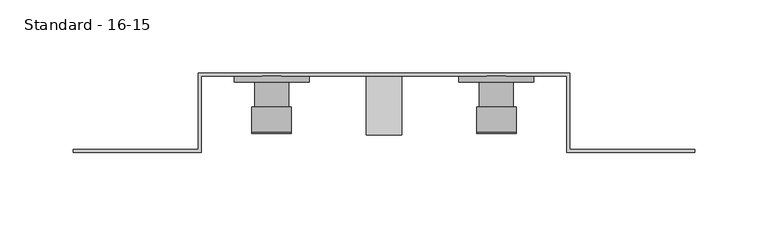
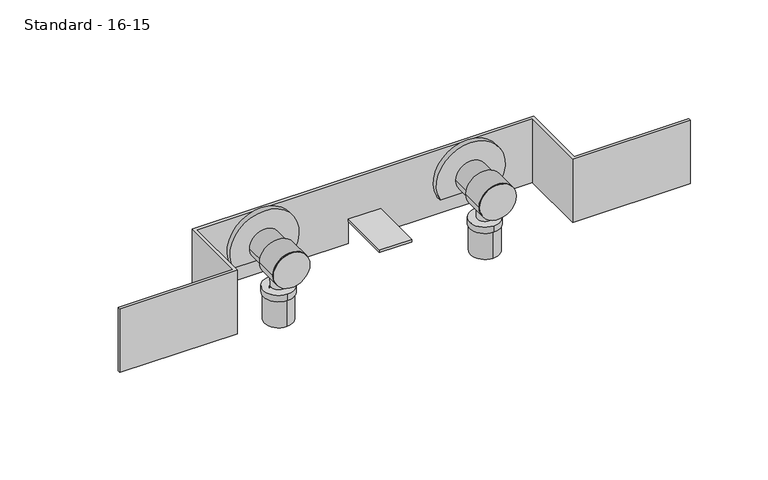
"""IFC4 building model written with IfcOpenShell, lengths in millimetres: pipe fitting geometry, PIF_Tigris_Holder_Plate_Washstand_FMT_Wavin_(multiport) : Standard - 16-15."""

from ifc_helpers import new_model, si_unit, point, frame, frame_2d, origin, place, context, project, spatial, polyline, circle_curve, trimmed, segment, composite_curve, outline, extrude, faceted_brep, source, transform, mapped, element, save


def standard_16_15_75b3f4f0(model_context):
    return source(origin(), model_context, "Body", "SolidModel", [
        extrude(outline(composite_curve([segment(trimmed(circle_curve(frame_2d((0.0, 76.5)), 25.5), [point((-11.5, 99.2596134))], [point((-11.5, 53.7403866))], False, "CARTESIAN"), True, "CONTINUOUS"), segment(polyline([(-11.5, 53.7403866), (-11.5, 99.2596134)]), True, "CONTINUOUS")], self_intersect=False)), frame((0.0, -4.0, 0.0), z_axis=(0.0, 1.0, 0.0), x_axis=(0.0, 0.0, 1.0)), (0.0, 0.0, 1.0), 4.0),
        extrude(outline(composite_curve([segment(trimmed(circle_curve(frame_2d((0.0, 76.5)), 11.5), [point((0.0, 88.0))], [point((0.0, 65.0))], False, "CARTESIAN"), True, "CONTINUOUS"), segment(trimmed(circle_curve(frame_2d((0.0, 76.5)), 11.5), [point((0.0, 65.0))], [point((0.0, 88.0))], False, "CARTESIAN"), True, "CONTINUOUS")], self_intersect=False)), frame((0.0, -28.0, 0.0), z_axis=(0.0, 1.0, 0.0), x_axis=(0.0, 0.0, 1.0)), (0.0, 0.0, 1.0), 28.0),
        extrude(outline(composite_curve([segment(trimmed(circle_curve(frame_2d((0.0, 76.5)), 13.5), [point((0.0, 63.0))], [point((0.0, 90.0))], False, "CARTESIAN"), True, "CONTINUOUS"), segment(trimmed(circle_curve(frame_2d((0.0, 76.5)), 13.5), [point((0.0, 90.0))], [point((0.0, 63.0))], False, "CARTESIAN"), True, "CONTINUOUS")], self_intersect=False)), frame((0.0, -38.0, 0.0), z_axis=(0.0, 1.0, 0.0), x_axis=(0.0, 0.0, 1.0)), (0.0, 0.0, 1.0), 17.0),
        extrude(outline(composite_curve([segment(trimmed(circle_curve(frame_2d((0.0, 76.5)), 13.5), [point((0.0, 63.0))], [point((0.0, 90.0))], False, "CARTESIAN"), True, "CONTINUOUS"), segment(trimmed(circle_curve(frame_2d((0.0, 76.5)), 13.5), [point((0.0, 90.0))], [point((0.0, 63.0))], False, "CARTESIAN"), True, "CONTINUOUS")], self_intersect=False)), frame((0.0, -39.0, 0.0), z_axis=(0.0, 1.0, 0.0), x_axis=(0.0, 0.0, 1.0)), (0.0, 0.0, 1.0), 1.0),
        extrude(outline(composite_curve([segment(trimmed(circle_curve(frame_2d((76.5, -22.0)), 11.35), [point((76.5, -10.65))], [point((76.5, -33.35))], False, "CARTESIAN"), True, "CONTINUOUS"), segment(trimmed(circle_curve(frame_2d((76.5, -22.0)), 11.35), [point((76.5, -33.35))], [point((76.5, -10.65))], False, "CARTESIAN"), True, "CONTINUOUS")], self_intersect=False)), frame((0.0, 0.0, -27.0), z_axis=(0.0, 0.0, 1.0), x_axis=(1.0, 0.0, 0.0)), (0.0, 0.0, 1.0), 5.0),
        extrude(outline(composite_curve([segment(trimmed(circle_curve(frame_2d((76.5, -22.0)), 10.5), [point((76.5, -11.5))], [point((76.5, -32.5))], False, "CARTESIAN"), True, "CONTINUOUS"), segment(trimmed(circle_curve(frame_2d((76.5, -22.0)), 10.5), [point((76.5, -32.5))], [point((76.5, -11.5))], False, "CARTESIAN"), True, "CONTINUOUS")], self_intersect=False), holes=[composite_curve([segment(trimmed(circle_curve(frame_2d((76.5, -22.0)), 8.2), [point((76.5, -13.8))], [point((76.5, -30.2))], True, "CARTESIAN"), True, "CONTINUOUS"), segment(trimmed(circle_curve(frame_2d((76.5, -22.0)), 8.2), [point((76.5, -30.2))], [point((76.5, -13.8))], True, "CARTESIAN"), True, "CONTINUOUS")], self_intersect=False)]), frame((0.0, 0.0, -48.0), z_axis=(0.0, 0.0, 1.0), x_axis=(1.0, 0.0, 0.0)), (0.0, 0.0, 1.0), 21.0),
        extrude(outline(composite_curve([segment(trimmed(circle_curve(frame_2d((76.5, -22.0)), 6.1), [point((76.5, -15.9))], [point((76.5, -28.1))], False, "CARTESIAN"), True, "CONTINUOUS"), segment(trimmed(circle_curve(frame_2d((76.5, -22.0)), 6.1), [point((76.5, -28.1))], [point((76.5, -15.9))], False, "CARTESIAN"), True, "CONTINUOUS")], self_intersect=False), holes=[composite_curve([segment(trimmed(circle_curve(frame_2d((76.5, -22.0)), 4.0), [point((76.5, -18.0))], [point((76.5, -26.0))], True, "CARTESIAN"), True, "CONTINUOUS"), segment(trimmed(circle_curve(frame_2d((76.5, -22.0)), 4.0), [point((76.5, -26.0))], [point((76.5, -18.0))], True, "CARTESIAN"), True, "CONTINUOUS")], self_intersect=False)]), frame((0.0, 0.0, -48.0), z_axis=(0.0, 0.0, 1.0), x_axis=(1.0, 0.0, 0.0)), (0.0, 0.0, 1.0), 25.0),
        extrude(outline(composite_curve([segment(trimmed(circle_curve(frame_2d((0.0, 76.5)), 5.5), [point((5.5, 76.5))], [point((-5.5, 76.5))], False, "CARTESIAN"), True, "CONTINUOUS"), segment(trimmed(circle_curve(frame_2d((0.0, 76.5)), 5.5), [point((-5.5, 76.5))], [point((5.5, 76.5))], False, "CARTESIAN"), True, "CONTINUOUS")], self_intersect=False)), frame((0.0, -28.0, 0.0), z_axis=(0.0, 1.0, 0.0), x_axis=(0.0, 0.0, 1.0)), (0.0, 0.0, 1.0), 6.0),
        extrude(outline(composite_curve([segment(trimmed(circle_curve(frame_2d((76.5, -22.0)), 5.5), [point((76.5, -16.5))], [point((76.5, -27.5))], False, "CARTESIAN"), True, "CONTINUOUS"), segment(trimmed(circle_curve(frame_2d((76.5, -22.0)), 5.5), [point((76.5, -27.5))], [point((76.5, -16.5))], False, "CARTESIAN"), True, "CONTINUOUS")], self_intersect=False)), frame((0.0, 0.0, -23.0), z_axis=(0.0, 0.0, 1.0), x_axis=(1.0, 0.0, 0.0)), (0.0, 0.0, 1.0), 23.0),
        extrude(outline(composite_curve([segment(trimmed(circle_curve(frame_2d((0.0, -76.5)), 25.5), [point((-11.5, -53.7403866))], [point((-11.5, -99.2596134))], False, "CARTESIAN"), True, "CONTINUOUS"), segment(polyline([(-11.5, -99.2596134), (-11.5, -53.7403866)]), True, "CONTINUOUS")], self_intersect=False)), frame((0.0, -4.0, 0.0), z_axis=(0.0, 1.0, 0.0), x_axis=(0.0, 0.0, 1.0)), (0.0, 0.0, 1.0), 4.0),
        extrude(outline(composite_curve([segment(trimmed(circle_curve(frame_2d((0.0, -76.5)), 11.5), [point((0.0, -65.0))], [point((0.0, -88.0))], False, "CARTESIAN"), True, "CONTINUOUS"), segment(trimmed(circle_curve(frame_2d((0.0, -76.5)), 11.5), [point((0.0, -88.0))], [point((0.0, -65.0))], False, "CARTESIAN"), True, "CONTINUOUS")], self_intersect=False)), frame((0.0, -28.0, 0.0), z_axis=(0.0, 1.0, 0.0), x_axis=(0.0, 0.0, 1.0)), (0.0, 0.0, 1.0), 28.0),
        extrude(outline(composite_curve([segment(trimmed(circle_curve(frame_2d((0.0, -76.5)), 13.5), [point((0.0, -90.0))], [point((0.0, -63.0))], False, "CARTESIAN"), True, "CONTINUOUS"), segment(trimmed(circle_curve(frame_2d((0.0, -76.5)), 13.5), [point((0.0, -63.0))], [point((0.0, -90.0))], False, "CARTESIAN"), True, "CONTINUOUS")], self_intersect=False)), frame((0.0, -38.0, 0.0), z_axis=(0.0, 1.0, 0.0), x_axis=(0.0, 0.0, 1.0)), (0.0, 0.0, 1.0), 17.0),
        extrude(outline(composite_curve([segment(trimmed(circle_curve(frame_2d((0.0, -76.5)), 13.5), [point((0.0, -90.0))], [point((0.0, -63.0))], False, "CARTESIAN"), True, "CONTINUOUS"), segment(trimmed(circle_curve(frame_2d((0.0, -76.5)), 13.5), [point((0.0, -63.0))], [point((0.0, -90.0))], False, "CARTESIAN"), True, "CONTINUOUS")], self_intersect=False)), frame((0.0, -39.0, 0.0), z_axis=(0.0, 1.0, 0.0), x_axis=(0.0, 0.0, 1.0)), (0.0, 0.0, 1.0), 1.0),
        extrude(outline(composite_curve([segment(trimmed(circle_curve(frame_2d((-76.5, -22.0)), 11.35), [point((-76.5, -10.65))], [point((-76.5, -33.35))], False, "CARTESIAN"), True, "CONTINUOUS"), segment(trimmed(circle_curve(frame_2d((-76.5, -22.0)), 11.35), [point((-76.5, -33.35))], [point((-76.5, -10.65))], False, "CARTESIAN"), True, "CONTINUOUS")], self_intersect=False)), frame((0.0, 0.0, -27.0), z_axis=(0.0, 0.0, 1.0), x_axis=(1.0, 0.0, 0.0)), (0.0, 0.0, 1.0), 5.0),
        extrude(outline(composite_curve([segment(trimmed(circle_curve(frame_2d((-76.5, -22.0)), 10.5), [point((-76.5, -11.5))], [point((-76.5, -32.5))], False, "CARTESIAN"), True, "CONTINUOUS"), segment(trimmed(circle_curve(frame_2d((-76.5, -22.0)), 10.5), [point((-76.5, -32.5))], [point((-76.5, -11.5))], False, "CARTESIAN"), True, "CONTINUOUS")], self_intersect=False), holes=[composite_curve([segment(trimmed(circle_curve(frame_2d((-76.5, -22.0)), 8.2), [point((-76.5, -13.8))], [point((-76.5, -30.2))], True, "CARTESIAN"), True, "CONTINUOUS"), segment(trimmed(circle_curve(frame_2d((-76.5, -22.0)), 8.2), [point((-76.5, -30.2))], [point((-76.5, -13.8))], True, "CARTESIAN"), True, "CONTINUOUS")], self_intersect=False)]), frame((0.0, 0.0, -48.0), z_axis=(0.0, 0.0, 1.0), x_axis=(1.0, 0.0, 0.0)), (0.0, 0.0, 1.0), 21.0),
        extrude(outline(composite_curve([segment(trimmed(circle_curve(frame_2d((-76.5, -22.0)), 6.1), [point((-76.5, -15.9))], [point((-76.5, -28.1))], False, "CARTESIAN"), True, "CONTINUOUS"), segment(trimmed(circle_curve(frame_2d((-76.5, -22.0)), 6.1), [point((-76.5, -28.1))], [point((-76.5, -15.9))], False, "CARTESIAN"), True, "CONTINUOUS")], self_intersect=False), holes=[composite_curve([segment(trimmed(circle_curve(frame_2d((-76.5, -22.0)), 4.0), [point((-76.5, -18.0))], [point((-76.5, -26.0))], True, "CARTESIAN"), True, "CONTINUOUS"), segment(trimmed(circle_curve(frame_2d((-76.5, -22.0)), 4.0), [point((-76.5, -26.0))], [point((-76.5, -18.0))], True, "CARTESIAN"), True, "CONTINUOUS")], self_intersect=False)]), frame((0.0, 0.0, -48.0), z_axis=(0.0, 0.0, 1.0), x_axis=(1.0, 0.0, 0.0)), (0.0, 0.0, 1.0), 25.0),
        extrude(outline(composite_curve([segment(trimmed(circle_curve(frame_2d((0.0, -76.5)), 5.5), [point((5.5, -76.5))], [point((-5.5, -76.5))], False, "CARTESIAN"), True, "CONTINUOUS"), segment(trimmed(circle_curve(frame_2d((0.0, -76.5)), 5.5), [point((-5.5, -76.5))], [point((5.5, -76.5))], False, "CARTESIAN"), True, "CONTINUOUS")], self_intersect=False)), frame((0.0, -28.0, 0.0), z_axis=(0.0, 1.0, 0.0), x_axis=(0.0, 0.0, 1.0)), (0.0, 0.0, 1.0), 6.0),
        extrude(outline(composite_curve([segment(trimmed(circle_curve(frame_2d((-76.5, -22.0)), 5.5), [point((-76.5, -16.5))], [point((-76.5, -27.5))], False, "CARTESIAN"), True, "CONTINUOUS"), segment(trimmed(circle_curve(frame_2d((-76.5, -22.0)), 5.5), [point((-76.5, -27.5))], [point((-76.5, -16.5))], False, "CARTESIAN"), True, "CONTINUOUS")], self_intersect=False)), frame((0.0, 0.0, -23.0), z_axis=(0.0, 0.0, 1.0), x_axis=(1.0, 0.0, 0.0)), (0.0, 0.0, 1.0), 23.0),
        extrude(outline(polyline([(12.0, 0.0), (12.0, -40.0), (-12.0, -40.0), (-12.0, 0.0), (12.0, 0.0)])), frame((0.0, 0.0, -8.0), z_axis=(0.0, 0.0, 1.0), x_axis=(1.0, 0.0, 0.0)), (0.0, 0.0, 1.0), 2.0),
        faceted_brep([(-124.5, -52.0, 25.0), (-124.5, 0.0, 25.0), (124.5, 0.0, 25.0), (124.5, -52.0, 25.0), (211.5, -52.0, 25.0), (211.5, -50.0, 25.0), (126.5, -50.0, 25.0), (126.5, 2.0, 25.0), (-126.5, 2.0, 25.0), (-126.5, -50.0, 25.0), (-211.5, -50.0, 25.0), (-211.5, -52.0, 25.0), (-124.5, -52.0, -25.0), (-211.5, -52.0, -25.0), (-211.5, -50.0, -25.0), (-126.5, -50.0, -25.0), (-126.5, 2.0, -25.0), (-12.0, 2.0, -25.0), (-12.0, 0.0, -25.0), (-124.5, 0.0, -25.0), (126.5, 2.0, -25.0), (126.5, -50.0, -25.0), (211.5, -50.0, -25.0), (211.5, -52.0, -25.0), (124.5, -52.0, -25.0), (124.5, 0.0, -25.0), (12.0, 0.0, -25.0), (12.0, 2.0, -25.0), (-12.0, 0.0, -8.0), (12.0, 0.0, -8.0), (12.0, 2.0, -8.0), (-12.0, 2.0, -8.0)], [[[0, 1, 2, 3, 4, 5, 6, 7, 8, 9, 10, 11]], [[12, 13, 14, 15, 16, 17, 18, 19]], [[20, 21, 22, 23, 24, 25, 26, 27]], [[1, 0, 12, 19]], [[2, 1, 19, 18, 28, 29, 26, 25]], [[3, 2, 25, 24]], [[4, 3, 24, 23]], [[5, 4, 23, 22]], [[6, 5, 22, 21]], [[7, 6, 21, 20]], [[8, 7, 20, 27, 30, 31, 17, 16]], [[9, 8, 16, 15]], [[10, 9, 15, 14]], [[11, 10, 14, 13]], [[0, 11, 13, 12]], [[28, 31, 30, 29]], [[31, 28, 18, 17]], [[29, 30, 27, 26]]]),
    ])


if __name__ == "__main__":
    model = new_model("IFC4")
    model_context = context("Model", 3, world=origin())
    ifc_project = project(units=[si_unit("LENGTHUNIT", "METRE", prefix="MILLI")], contexts=[model_context])
    site = spatial("IfcSite", under=ifc_project)
    building = spatial("IfcBuilding", under=site)
    placement = place(None, origin())
    standard_16_15_shape = standard_16_15_75b3f4f0(model_context)
    element("IfcPipeFitting", 1, ObjectType="PIF_Tigris_Holder_Plate_Washstand_FMT_Wavin_(multiport) : Standard - 16-15", at=placement, inside=building, context=model_context, shape_type="MappedRepresentation", body=[
        mapped(standard_16_15_shape, transform((0.0, 0.0, 0.0), x_axis=(1.0, 0.0, 0.0), y_axis=(0.0, 1.0, 0.0), z_axis=(0.0, 0.0, 1.0))),
    ])
    save(model, "model.ifc")
